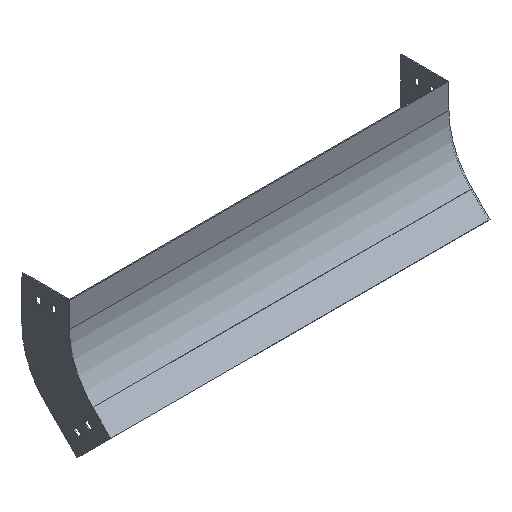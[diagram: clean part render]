
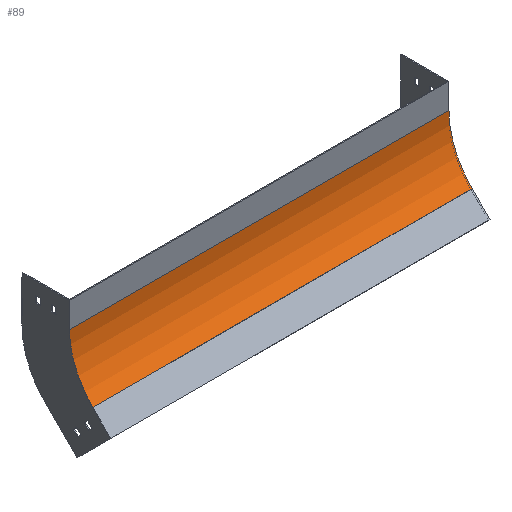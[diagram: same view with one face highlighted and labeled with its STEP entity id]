
A CAD part, isometric view. The second image highlights one B-rep face of the part: STEP entity #89.
In plain terms, the highlighted cylindrical face has radius 125 mm (diameter 250 mm), a partial arc.
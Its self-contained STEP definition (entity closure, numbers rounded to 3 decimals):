
#88 = VERTEX_POINT ( 'NONE', #331 ) ;
#89 = ADVANCED_FACE ( 'NONE', ( #1098 ), #1622, .F. ) ;
#91 = DIRECTION ( 'NONE',  ( -1., 0., 0. ) ) ;
#141 = DIRECTION ( 'NONE',  ( -1., 0., 0. ) ) ;
#199 = CIRCLE ( 'NONE', #526, 125. ) ;
#216 = CARTESIAN_POINT ( 'NONE',  ( 300., -125., -40. ) ) ;
#269 = LINE ( 'NONE', #760, #427 ) ;
#331 = CARTESIAN_POINT ( 'NONE',  ( -300., -36.612, -128.388 ) ) ;
#360 = ORIENTED_EDGE ( 'NONE', *, *, #866, .F. ) ;
#408 = EDGE_CURVE ( 'NONE', #781, #1183, #269, .T. ) ;
#422 = CARTESIAN_POINT ( 'NONE',  ( 300., -36.612, -128.388 ) ) ;
#427 = VECTOR ( 'NONE', #141, 1000. ) ;
#478 = DIRECTION ( 'NONE',  ( 0., 0., 1. ) ) ;
#526 = AXIS2_PLACEMENT_3D ( 'NONE', #800, #938, #1463 ) ;
#665 = CIRCLE ( 'NONE', #1438, 125. ) ;
#715 = DIRECTION ( 'NONE',  ( -1., 0., 0. ) ) ;
#722 = ORIENTED_EDGE ( 'NONE', *, *, #1075, .F. ) ;
#760 = CARTESIAN_POINT ( 'NONE',  ( 300., 0., -40. ) ) ;
#781 = VERTEX_POINT ( 'NONE', #950 ) ;
#800 = CARTESIAN_POINT ( 'NONE',  ( -300., -125., -40. ) ) ;
#852 = CARTESIAN_POINT ( 'NONE',  ( -300., 0., -40. ) ) ;
#858 = ORIENTED_EDGE ( 'NONE', *, *, #408, .T. ) ;
#866 = EDGE_CURVE ( 'NONE', #781, #994, #665, .T. ) ;
#938 = DIRECTION ( 'NONE',  ( -1., 0., 0. ) ) ;
#940 = LINE ( 'NONE', #1488, #1539 ) ;
#950 = CARTESIAN_POINT ( 'NONE',  ( 300., 0., -40. ) ) ;
#994 = VERTEX_POINT ( 'NONE', #422 ) ;
#1000 = AXIS2_PLACEMENT_3D ( 'NONE', #1366, #715, #1495 ) ;
#1075 = EDGE_CURVE ( 'NONE', #994, #88, #940, .T. ) ;
#1098 = FACE_OUTER_BOUND ( 'NONE', #1416, .T. ) ;
#1183 = VERTEX_POINT ( 'NONE', #852 ) ;
#1205 = DIRECTION ( 'NONE',  ( -1., 0., 0. ) ) ;
#1309 = ORIENTED_EDGE ( 'NONE', *, *, #1507, .T. ) ;
#1366 = CARTESIAN_POINT ( 'NONE',  ( 300., -125., -40. ) ) ;
#1416 = EDGE_LOOP ( 'NONE', ( #1309, #722, #360, #858 ) ) ;
#1438 = AXIS2_PLACEMENT_3D ( 'NONE', #216, #91, #478 ) ;
#1463 = DIRECTION ( 'NONE',  ( 0., 0., 1. ) ) ;
#1488 = CARTESIAN_POINT ( 'NONE',  ( 300., -36.612, -128.388 ) ) ;
#1495 = DIRECTION ( 'NONE',  ( 0., 0., 1. ) ) ;
#1507 = EDGE_CURVE ( 'NONE', #1183, #88, #199, .T. ) ;
#1539 = VECTOR ( 'NONE', #1205, 1000. ) ;
#1622 = CYLINDRICAL_SURFACE ( 'NONE', #1000, 125. ) ;
